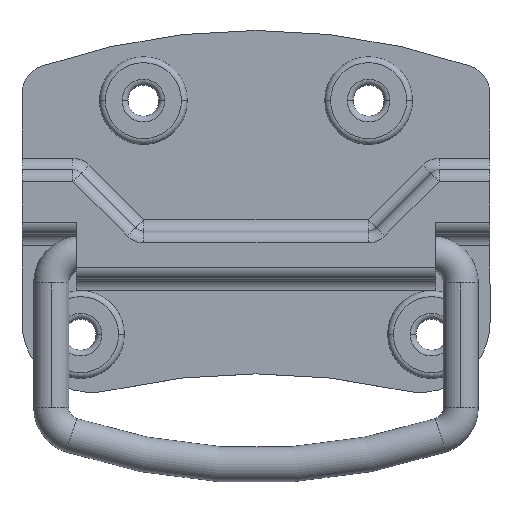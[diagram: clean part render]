
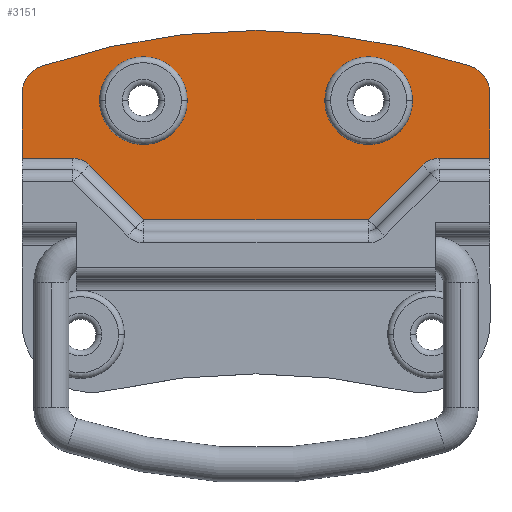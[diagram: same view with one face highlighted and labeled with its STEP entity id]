
A CAD part, top view. The second image highlights one B-rep face of the part: STEP entity #3151.
In plain terms, the highlighted planar face has unit normal (0, 0, 1).
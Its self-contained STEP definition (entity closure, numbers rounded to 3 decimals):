
#44 = CARTESIAN_POINT ( 'NONE',  ( -40., 36.871, 1. ) ) ;
#117 = EDGE_CURVE ( 'NONE', #4451, #4953, #1815, .T. ) ;
#203 = DIRECTION ( 'NONE',  ( 0., -1., 0. ) ) ;
#240 = CIRCLE ( 'NONE', #3920, 7.5 ) ;
#244 = ORIENTED_EDGE ( 'NONE', *, *, #722, .F. ) ;
#271 = DIRECTION ( 'NONE',  ( 1., 0., 0. ) ) ;
#279 = EDGE_CURVE ( 'NONE', #2582, #421, #4009, .T. ) ;
#288 = AXIS2_PLACEMENT_3D ( 'NONE', #2732, #330, #3136 ) ;
#301 = EDGE_CURVE ( 'NONE', #2609, #5142, #1876, .T. ) ;
#323 = VERTEX_POINT ( 'NONE', #4161 ) ;
#330 = DIRECTION ( 'NONE',  ( 0., 0., 1. ) ) ;
#415 = DIRECTION ( 'NONE',  ( 1., 0., 0. ) ) ;
#421 = VERTEX_POINT ( 'NONE', #4123 ) ;
#722 = EDGE_CURVE ( 'NONE', #421, #2582, #4659, .T. ) ;
#751 = EDGE_CURVE ( 'NONE', #4991, #2613, #240, .T. ) ;
#779 = CARTESIAN_POINT ( 'NONE',  ( 0., 0., 1. ) ) ;
#788 = EDGE_CURVE ( 'NONE', #4953, #3581, #2245, .T. ) ;
#829 = FACE_OUTER_BOUND ( 'NONE', #2296, .T. ) ;
#851 = LINE ( 'NONE', #3087, #2040 ) ;
#973 = EDGE_CURVE ( 'NONE', #2613, #4991, #2417, .T. ) ;
#985 = DIRECTION ( 'NONE',  ( 0., 0., 1. ) ) ;
#1030 = CARTESIAN_POINT ( 'NONE',  ( 40., 36.871, 1. ) ) ;
#1046 = AXIS2_PLACEMENT_3D ( 'NONE', #2030, #1350, #415 ) ;
#1069 = ORIENTED_EDGE ( 'NONE', *, *, #301, .T. ) ;
#1100 = DIRECTION ( 'NONE',  ( 0., 1., 0. ) ) ;
#1155 = EDGE_CURVE ( 'NONE', #2575, #5142, #4605, .T. ) ;
#1163 = DIRECTION ( 'NONE',  ( 0., 0., 1. ) ) ;
#1196 = VECTOR ( 'NONE', #4846, 1000. ) ;
#1216 = DIRECTION ( 'NONE',  ( 0., 0., 1. ) ) ;
#1241 = CARTESIAN_POINT ( 'NONE',  ( 3.6, 3.6, 1. ) ) ;
#1350 = DIRECTION ( 'NONE',  ( 0., 0., 1. ) ) ;
#1448 = CARTESIAN_POINT ( 'NONE',  ( 0., 26.371, 1. ) ) ;
#1619 = CIRCLE ( 'NONE', #3797, 113. ) ;
#1645 = CARTESIAN_POINT ( 'NONE',  ( 19.25, 46.7, 1. ) ) ;
#1668 = CARTESIAN_POINT ( 'NONE',  ( -19.25, 46.7, 1. ) ) ;
#1669 = ORIENTED_EDGE ( 'NONE', *, *, #4214, .F. ) ;
#1745 = VERTEX_POINT ( 'NONE', #2571 ) ;
#1777 = FACE_BOUND ( 'NONE', #4072, .T. ) ;
#1780 = ORIENTED_EDGE ( 'NONE', *, *, #3768, .T. ) ;
#1815 = CIRCLE ( 'NONE', #1046, 5. ) ;
#1848 = CARTESIAN_POINT ( 'NONE',  ( -31.328, 36.871, 1. ) ) ;
#1865 = EDGE_CURVE ( 'NONE', #2575, #3841, #2627, .T. ) ;
#1876 = LINE ( 'NONE', #2023, #1196 ) ;
#1879 = AXIS2_PLACEMENT_3D ( 'NONE', #3564, #1163, #3972 ) ;
#2023 = CARTESIAN_POINT ( 'NONE',  ( -3.6, 3.6, 1. ) ) ;
#2030 = CARTESIAN_POINT ( 'NONE',  ( -35., 47.871, 1. ) ) ;
#2032 = CARTESIAN_POINT ( 'NONE',  ( 0., -54.3, 1. ) ) ;
#2040 = VECTOR ( 'NONE', #1100, 1000. ) ;
#2044 = DIRECTION ( 'NONE',  ( 1., 0., 0. ) ) ;
#2054 = VERTEX_POINT ( 'NONE', #4170 ) ;
#2127 = VECTOR ( 'NONE', #203, 1000. ) ;
#2142 = ORIENTED_EDGE ( 'NONE', *, *, #117, .T. ) ;
#2155 = ORIENTED_EDGE ( 'NONE', *, *, #279, .F. ) ;
#2245 = LINE ( 'NONE', #2595, #2127 ) ;
#2247 = CIRCLE ( 'NONE', #288, 4. ) ;
#2275 = CARTESIAN_POINT ( 'NONE',  ( 31.328, 32.871, 1. ) ) ;
#2296 = EDGE_LOOP ( 'NONE', ( #3021, #4128, #2461, #4722, #4595, #2142, #4039, #1780, #1669, #3602, #4649, #1069 ) ) ;
#2316 = CARTESIAN_POINT ( 'NONE',  ( 31.328, 36.871, 1. ) ) ;
#2317 = ORIENTED_EDGE ( 'NONE', *, *, #973, .F. ) ;
#2331 = CARTESIAN_POINT ( 'NONE',  ( 26.75, 46.7, 1. ) ) ;
#2417 = CIRCLE ( 'NONE', #3268, 7.5 ) ;
#2418 = DIRECTION ( 'NONE',  ( 1., 0., 0. ) ) ;
#2461 = ORIENTED_EDGE ( 'NONE', *, *, #4857, .T. ) ;
#2569 = CARTESIAN_POINT ( 'NONE',  ( 0., 36.871, 1. ) ) ;
#2571 = CARTESIAN_POINT ( 'NONE',  ( 40., 47.871, 1. ) ) ;
#2575 = VERTEX_POINT ( 'NONE', #2316 ) ;
#2582 = VERTEX_POINT ( 'NONE', #2331 ) ;
#2595 = CARTESIAN_POINT ( 'NONE',  ( -40., 0., 1. ) ) ;
#2609 = VERTEX_POINT ( 'NONE', #5164 ) ;
#2613 = VERTEX_POINT ( 'NONE', #4785 ) ;
#2627 = LINE ( 'NONE', #5090, #4741 ) ;
#2652 = EDGE_LOOP ( 'NONE', ( #244, #2155 ) ) ;
#2674 = DIRECTION ( 'NONE',  ( 1., 0., 0. ) ) ;
#2728 = VERTEX_POINT ( 'NONE', #4833 ) ;
#2732 = CARTESIAN_POINT ( 'NONE',  ( -31.328, 32.871, 1. ) ) ;
#2777 = DIRECTION ( 'NONE',  ( 1., 0., 0. ) ) ;
#2968 = VECTOR ( 'NONE', #5086, 1000. ) ;
#2974 = DIRECTION ( 'NONE',  ( 1., 0., 0. ) ) ;
#3021 = ORIENTED_EDGE ( 'NONE', *, *, #1155, .F. ) ;
#3023 = AXIS2_PLACEMENT_3D ( 'NONE', #3621, #1216, #4030 ) ;
#3073 = DIRECTION ( 'NONE',  ( 1., 0., 0. ) ) ;
#3083 = CIRCLE ( 'NONE', #1879, 5. ) ;
#3087 = CARTESIAN_POINT ( 'NONE',  ( 40., 0., 1. ) ) ;
#3095 = EDGE_CURVE ( 'NONE', #1745, #2728, #3083, .T. ) ;
#3136 = DIRECTION ( 'NONE',  ( 1., 0., 0. ) ) ;
#3151 = ADVANCED_FACE ( 'NONE', ( #3916, #829, #1777 ), #4811, .T. ) ;
#3268 = AXIS2_PLACEMENT_3D ( 'NONE', #3388, #985, #3798 ) ;
#3314 = CARTESIAN_POINT ( 'NONE',  ( 28.5, 35.7, 1. ) ) ;
#3329 = VECTOR ( 'NONE', #2974, 1000. ) ;
#3388 = CARTESIAN_POINT ( 'NONE',  ( -19.25, 46.7, 1. ) ) ;
#3434 = AXIS2_PLACEMENT_3D ( 'NONE', #2275, #5105, #2674 ) ;
#3448 = LINE ( 'NONE', #2569, #3329 ) ;
#3564 = CARTESIAN_POINT ( 'NONE',  ( 35., 47.871, 1. ) ) ;
#3568 = CARTESIAN_POINT ( 'NONE',  ( -40., 47.871, 1. ) ) ;
#3581 = VERTEX_POINT ( 'NONE', #44 ) ;
#3602 = ORIENTED_EDGE ( 'NONE', *, *, #4392, .T. ) ;
#3621 = CARTESIAN_POINT ( 'NONE',  ( 19.25, 46.7, 1. ) ) ;
#3635 = LINE ( 'NONE', #1241, #3757 ) ;
#3643 = AXIS2_PLACEMENT_3D ( 'NONE', #1645, #4466, #2044 ) ;
#3687 = CARTESIAN_POINT ( 'NONE',  ( -36.62, 52.602, 1. ) ) ;
#3757 = VECTOR ( 'NONE', #4062, 1000. ) ;
#3768 = EDGE_CURVE ( 'NONE', #3581, #5216, #3448, .T. ) ;
#3797 = AXIS2_PLACEMENT_3D ( 'NONE', #2032, #4860, #2418 ) ;
#3798 = DIRECTION ( 'NONE',  ( 1., 0., 0. ) ) ;
#3841 = VERTEX_POINT ( 'NONE', #1030 ) ;
#3916 = FACE_BOUND ( 'NONE', #2652, .T. ) ;
#3920 = AXIS2_PLACEMENT_3D ( 'NONE', #1668, #4485, #271 ) ;
#3972 = DIRECTION ( 'NONE',  ( 1., 0., 0. ) ) ;
#4009 = CIRCLE ( 'NONE', #3023, 7.5 ) ;
#4030 = DIRECTION ( 'NONE',  ( 1., 0., 0. ) ) ;
#4033 = AXIS2_PLACEMENT_3D ( 'NONE', #779, #5201, #2777 ) ;
#4039 = ORIENTED_EDGE ( 'NONE', *, *, #788, .T. ) ;
#4058 = LINE ( 'NONE', #1448, #2968 ) ;
#4062 = DIRECTION ( 'NONE',  ( 0.707, -0.707, 0. ) ) ;
#4072 = EDGE_LOOP ( 'NONE', ( #4996, #2317 ) ) ;
#4123 = CARTESIAN_POINT ( 'NONE',  ( 11.75, 46.7, 1. ) ) ;
#4128 = ORIENTED_EDGE ( 'NONE', *, *, #1865, .T. ) ;
#4161 = CARTESIAN_POINT ( 'NONE',  ( -28.5, 35.7, 1. ) ) ;
#4170 = CARTESIAN_POINT ( 'NONE',  ( -19.172, 26.371, 1. ) ) ;
#4214 = EDGE_CURVE ( 'NONE', #323, #5216, #2247, .T. ) ;
#4366 = EDGE_CURVE ( 'NONE', #2728, #4451, #1619, .T. ) ;
#4392 = EDGE_CURVE ( 'NONE', #323, #2054, #3635, .T. ) ;
#4451 = VERTEX_POINT ( 'NONE', #3687 ) ;
#4466 = DIRECTION ( 'NONE',  ( 0., 0., 1. ) ) ;
#4485 = DIRECTION ( 'NONE',  ( 0., 0., 1. ) ) ;
#4595 = ORIENTED_EDGE ( 'NONE', *, *, #4366, .T. ) ;
#4605 = CIRCLE ( 'NONE', #3434, 4. ) ;
#4649 = ORIENTED_EDGE ( 'NONE', *, *, #4828, .T. ) ;
#4659 = CIRCLE ( 'NONE', #3643, 7.5 ) ;
#4722 = ORIENTED_EDGE ( 'NONE', *, *, #3095, .T. ) ;
#4741 = VECTOR ( 'NONE', #3073, 1000. ) ;
#4785 = CARTESIAN_POINT ( 'NONE',  ( -11.75, 46.7, 1. ) ) ;
#4811 = PLANE ( 'NONE',  #4033 ) ;
#4828 = EDGE_CURVE ( 'NONE', #2054, #2609, #4058, .T. ) ;
#4833 = CARTESIAN_POINT ( 'NONE',  ( 36.62, 52.602, 1. ) ) ;
#4846 = DIRECTION ( 'NONE',  ( 0.707, 0.707, 0. ) ) ;
#4857 = EDGE_CURVE ( 'NONE', #3841, #1745, #851, .T. ) ;
#4860 = DIRECTION ( 'NONE',  ( 0., 0., 1. ) ) ;
#4953 = VERTEX_POINT ( 'NONE', #3568 ) ;
#4991 = VERTEX_POINT ( 'NONE', #5205 ) ;
#4996 = ORIENTED_EDGE ( 'NONE', *, *, #751, .F. ) ;
#5086 = DIRECTION ( 'NONE',  ( 1., 0., 0. ) ) ;
#5090 = CARTESIAN_POINT ( 'NONE',  ( 0., 36.871, 1. ) ) ;
#5105 = DIRECTION ( 'NONE',  ( 0., 0., 1. ) ) ;
#5142 = VERTEX_POINT ( 'NONE', #3314 ) ;
#5164 = CARTESIAN_POINT ( 'NONE',  ( 19.172, 26.371, 1. ) ) ;
#5201 = DIRECTION ( 'NONE',  ( 0., 0., 1. ) ) ;
#5205 = CARTESIAN_POINT ( 'NONE',  ( -26.75, 46.7, 1. ) ) ;
#5216 = VERTEX_POINT ( 'NONE', #1848 ) ;
